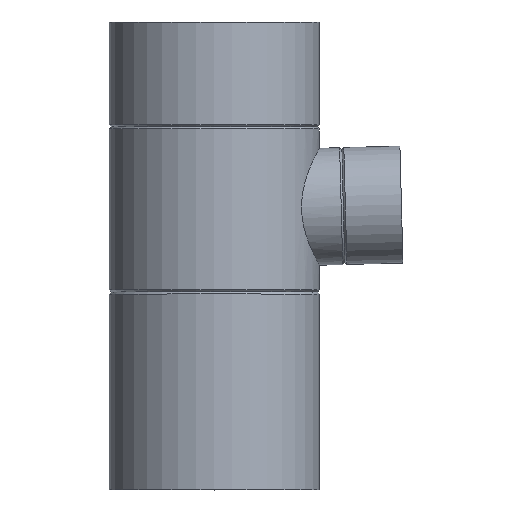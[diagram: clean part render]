
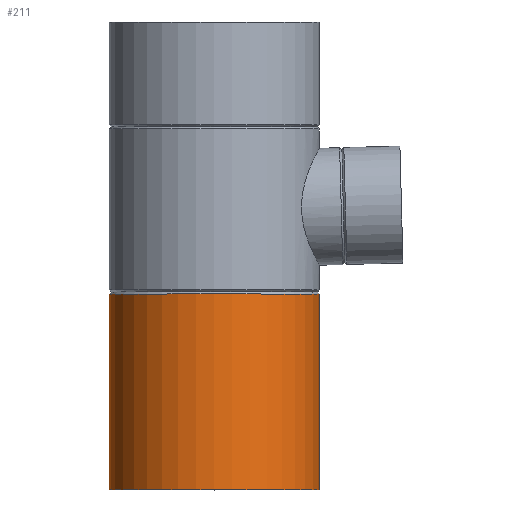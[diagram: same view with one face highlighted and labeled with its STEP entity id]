
A CAD part, top view. The second image highlights one B-rep face of the part: STEP entity #211.
In plain terms, the highlighted cylindrical face has radius 45.19 mm (diameter 90.38 mm), a full revolution.
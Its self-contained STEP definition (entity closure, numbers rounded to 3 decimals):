
#23=CYLINDRICAL_SURFACE($,#244,45.19);
#41=FACE_BOUND($,#87,.T.);
#57=FACE_OUTER_BOUND($,#86,.T.);
#86=EDGE_LOOP($,(#169));
#87=EDGE_LOOP($,(#170));
#100=CIRCLE($,#232,45.19);
#106=CIRCLE($,#245,45.19);
#116=VERTEX_POINT($,#403);
#123=VERTEX_POINT($,#489);
#133=EDGE_CURVE($,#116,#116,#100,.T.);
#140=EDGE_CURVE($,#123,#123,#106,.T.);
#169=ORIENTED_EDGE($,*,*,#133,.T.);
#170=ORIENTED_EDGE($,*,*,#140,.F.);
#211=ADVANCED_FACE($,(#57,#41),#23,.T.);
#232=AXIS2_PLACEMENT_3D($,#404,#280,#281);
#244=AXIS2_PLACEMENT_3D($,#488,#304,#305);
#245=AXIS2_PLACEMENT_3D($,#490,#306,#307);
#280=DIRECTION('center_axis',(0.,-1.,0.));
#281=DIRECTION('ref_axis',(1.,0.,0.));
#304=DIRECTION('center_axis',(0.,1.,0.));
#305=DIRECTION('ref_axis',(1.,0.,0.));
#306=DIRECTION('center_axis',(0.,-1.,0.));
#307=DIRECTION('ref_axis',(1.,0.,0.));
#403=CARTESIAN_POINT('',(-45.19,84.096,0.));
#404=CARTESIAN_POINT('Origin',(0.,84.096,0.));
#488=CARTESIAN_POINT('Origin',(0.,0.,0.));
#489=CARTESIAN_POINT('',(-45.19,0.,0.));
#490=CARTESIAN_POINT('Origin',(0.,0.,0.));
